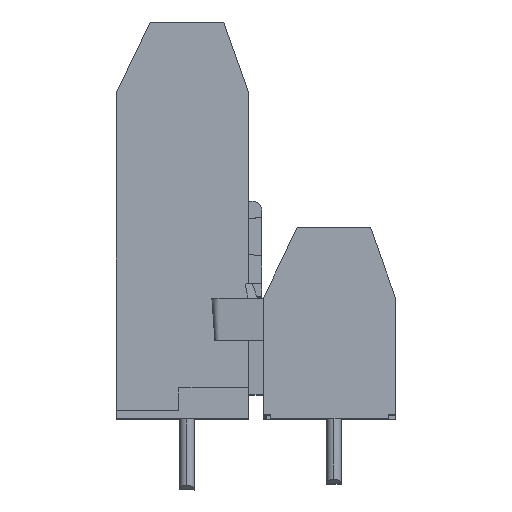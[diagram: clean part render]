
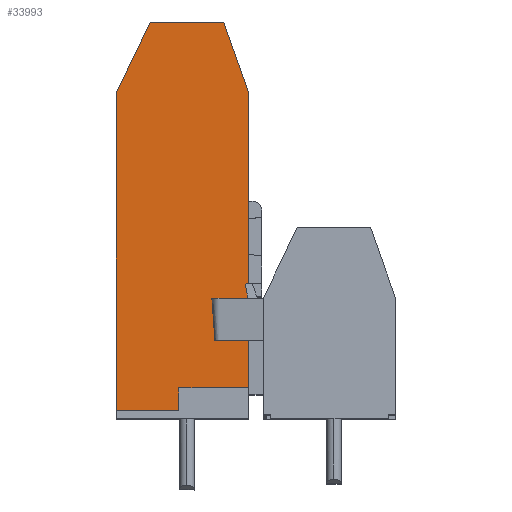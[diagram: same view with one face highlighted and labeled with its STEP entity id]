
A CAD part, top view. The second image highlights one B-rep face of the part: STEP entity #33993.
In plain terms, the highlighted planar face has unit normal (0, 0, 1).
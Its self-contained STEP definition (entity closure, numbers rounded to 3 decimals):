
#3606 = CARTESIAN_POINT ( 'NONE',  ( -0.3, 12.7, 0. ) ) ;
#3607 = LINE ( 'NONE', #3606, #3854 ) ;
#3711 = CARTESIAN_POINT ( 'NONE',  ( 4.2, -6.1, 0. ) ) ;
#3721 = CARTESIAN_POINT ( 'NONE',  ( 4.145, -6.1, 0. ) ) ;
#3722 = CARTESIAN_POINT ( 'NONE',  ( 4.093, -5.806, 0. ) ) ;
#3723 = CARTESIAN_POINT ( 'NONE',  ( 4.041, -5.512, 0. ) ) ;
#3724 = CARTESIAN_POINT ( 'NONE',  ( 3.989, -5.217, 0. ) ) ;
#3726 = B_SPLINE_CURVE_WITH_KNOTS ( 'NONE', 3,
 ( #3724, #3723, #3722, #3721 ),
 .UNSPECIFIED., .F., .F.,
 ( 4, 4 ),
 ( 0., 1. ),
 .UNSPECIFIED. ) ;
#3727 = CARTESIAN_POINT ( 'NONE',  ( 3.989, -5.217, 0. ) ) ;
#3740 = CARTESIAN_POINT ( 'NONE',  ( 4.145, -6.1, 0. ) ) ;
#3771 = CARTESIAN_POINT ( 'NONE',  ( -0.55, -12.2, 0. ) ) ;
#3783 = CARTESIAN_POINT ( 'NONE',  ( -4.8, -13.733, 0. ) ) ;
#3802 = CARTESIAN_POINT ( 'NONE',  ( 4.2, -12.2, 0. ) ) ;
#3803 = DIRECTION ( 'NONE',  ( 0., -1., 0. ) ) ;
#3804 = VECTOR ( 'NONE', #3803, 1000. ) ;
#3805 = CARTESIAN_POINT ( 'NONE',  ( 4.2, -0.516, 0. ) ) ;
#3806 = LINE ( 'NONE', #3805, #3804 ) ;
#3815 = CARTESIAN_POINT ( 'NONE',  ( -0.55, -13.733, 0. ) ) ;
#3816 = DIRECTION ( 'NONE',  ( 0., -1., 0. ) ) ;
#3817 = VECTOR ( 'NONE', #3816, 1000. ) ;
#3818 = CARTESIAN_POINT ( 'NONE',  ( -0.55, -0.516, 0. ) ) ;
#3819 = LINE ( 'NONE', #3818, #3817 ) ;
#3845 = DIRECTION ( 'NONE',  ( 1., 0., 0. ) ) ;
#3846 = VECTOR ( 'NONE', #3845, 1000. ) ;
#3847 = CARTESIAN_POINT ( 'NONE',  ( -0.3, -6.1, 0. ) ) ;
#3848 = LINE ( 'NONE', #3847, #3846 ) ;
#3849 = DIRECTION ( 'NONE',  ( -1., 0., 0. ) ) ;
#3850 = VECTOR ( 'NONE', #3849, 1000. ) ;
#3851 = CARTESIAN_POINT ( 'NONE',  ( -0.3, -12.2, 0. ) ) ;
#3852 = LINE ( 'NONE', #3851, #3850 ) ;
#3853 = DIRECTION ( 'NONE',  ( 1., 0., 0. ) ) ;
#3854 = VECTOR ( 'NONE', #3853, 1000. ) ;
#3855 = B_SPLINE_CURVE_WITH_KNOTS ( 'NONE', 3,
 ( #3906, #3905, #3904, #3903, #3902, #3901 ),
 .UNSPECIFIED., .F., .F.,
 ( 4, 2, 4 ),
 ( 0., 0.5, 1. ),
 .UNSPECIFIED. ) ;
#3856 = CARTESIAN_POINT ( 'NONE',  ( 4.088, -5.1, 0. ) ) ;
#3901 = CARTESIAN_POINT ( 'NONE',  ( 3.989, -5.217, 0. ) ) ;
#3902 = CARTESIAN_POINT ( 'NONE',  ( 3.984, -5.189, 0. ) ) ;
#3903 = CARTESIAN_POINT ( 'NONE',  ( 3.993, -5.158, 0. ) ) ;
#3904 = CARTESIAN_POINT ( 'NONE',  ( 4.03, -5.113, 0. ) ) ;
#3905 = CARTESIAN_POINT ( 'NONE',  ( 4.059, -5.1, 0. ) ) ;
#3906 = CARTESIAN_POINT ( 'NONE',  ( 4.088, -5.1, 0. ) ) ;
#3929 = DIRECTION ( 'NONE',  ( -1., 0., 0. ) ) ;
#3930 = VECTOR ( 'NONE', #3929, 1000. ) ;
#3931 = CARTESIAN_POINT ( 'NONE',  ( -0.3, -13.733, 0. ) ) ;
#3932 = LINE ( 'NONE', #3931, #3930 ) ;
#4553 = CARTESIAN_POINT ( 'NONE',  ( -2.5, 12.7, 0. ) ) ;
#4614 = CARTESIAN_POINT ( 'NONE',  ( 2.5, 12.7, 0. ) ) ;
#5994 = CARTESIAN_POINT ( 'NONE',  ( 4.2, 7.9, 0. ) ) ;
#5995 = CARTESIAN_POINT ( 'NONE',  ( 3.633, 9.5, 0. ) ) ;
#5996 = CARTESIAN_POINT ( 'NONE',  ( 3.067, 11.1, 0. ) ) ;
#5997 = CARTESIAN_POINT ( 'NONE',  ( 2.5, 12.7, 0. ) ) ;
#5999 = CARTESIAN_POINT ( 'NONE',  ( 4.2, 7.9, 0. ) ) ;
#6000 = B_SPLINE_CURVE_WITH_KNOTS ( 'NONE', 3,
 ( #5997, #5996, #5995, #5994 ),
 .UNSPECIFIED., .F., .F.,
 ( 4, 4 ),
 ( 0., 1. ),
 .UNSPECIFIED. ) ;
#7388 = CARTESIAN_POINT ( 'NONE',  ( 4.2, -5.1, 0. ) ) ;
#7442 = DIRECTION ( 'NONE',  ( -1., 0., 0. ) ) ;
#7443 = VECTOR ( 'NONE', #7442, 1000. ) ;
#7444 = CARTESIAN_POINT ( 'NONE',  ( -0.3, -5.1, 0. ) ) ;
#7445 = LINE ( 'NONE', #7444, #7443 ) ;
#9857 = CARTESIAN_POINT ( 'NONE',  ( -4.8, 7.9, 0. ) ) ;
#9858 = DIRECTION ( 'NONE',  ( -0.432, -0.902, 0. ) ) ;
#9859 = VECTOR ( 'NONE', #9858, 1000. ) ;
#9860 = CARTESIAN_POINT ( 'NONE',  ( -3.65, 10.3, 0. ) ) ;
#9861 = LINE ( 'NONE', #9860, #9859 ) ;
#9862 = DIRECTION ( 'NONE',  ( 0., 1., 0. ) ) ;
#9863 = VECTOR ( 'NONE', #9862, 1000. ) ;
#9864 = CARTESIAN_POINT ( 'NONE',  ( 4.2, -2.15, 0. ) ) ;
#9865 = LINE ( 'NONE', #9864, #9863 ) ;
#9866 = DIRECTION ( 'NONE',  ( -1., 0., 0. ) ) ;
#9867 = DIRECTION ( 'NONE',  ( 0., 0., -1. ) ) ;
#9868 = CARTESIAN_POINT ( 'NONE',  ( 4.2, -13.733, 0. ) ) ;
#9869 = AXIS2_PLACEMENT_3D ( 'NONE', #9868, #9867, #9866 ) ;
#9870 = PLANE ( 'NONE',  #9869 ) ;
#9871 = FACE_OUTER_BOUND ( 'NONE', #34032, .T. ) ;
#9904 = B_SPLINE_CURVE_WITH_KNOTS ( 'NONE', 3,
 ( #9949, #9948, #9947, #9946 ),
 .UNSPECIFIED., .F., .F.,
 ( 4, 4 ),
 ( 0., 1. ),
 .UNSPECIFIED. ) ;
#9946 = CARTESIAN_POINT ( 'NONE',  ( -4.8, -13.733, 0. ) ) ;
#9947 = CARTESIAN_POINT ( 'NONE',  ( -4.8, -6.522, 0. ) ) ;
#9948 = CARTESIAN_POINT ( 'NONE',  ( -4.8, 0.689, 0. ) ) ;
#9949 = CARTESIAN_POINT ( 'NONE',  ( -4.8, 7.9, 0. ) ) ;
#27767 = VERTEX_POINT ( 'NONE', #3727 ) ;
#27769 = EDGE_CURVE ( 'NONE', #27767, #27810, #3726, .T. ) ;
#27779 = VERTEX_POINT ( 'NONE', #3711 ) ;
#27810 = VERTEX_POINT ( 'NONE', #3740 ) ;
#27824 = VERTEX_POINT ( 'NONE', #3783 ) ;
#27836 = VERTEX_POINT ( 'NONE', #3771 ) ;
#27851 = EDGE_CURVE ( 'NONE', #27836, #27853, #3819, .T. ) ;
#27853 = VERTEX_POINT ( 'NONE', #3815 ) ;
#27864 = EDGE_CURVE ( 'NONE', #27779, #27866, #3806, .T. ) ;
#27866 = VERTEX_POINT ( 'NONE', #3802 ) ;
#27881 = EDGE_CURVE ( 'NONE', #27866, #27836, #3852, .T. ) ;
#27888 = EDGE_CURVE ( 'NONE', #27810, #27779, #3848, .T. ) ;
#27935 = VERTEX_POINT ( 'NONE', #3856 ) ;
#27937 = EDGE_CURVE ( 'NONE', #27935, #27767, #3855, .T. ) ;
#27967 = EDGE_CURVE ( 'NONE', #27853, #27824, #3932, .T. ) ;
#28712 = VERTEX_POINT ( 'NONE', #4553 ) ;
#28717 = EDGE_CURVE ( 'NONE', #28712, #28718, #3607, .T. ) ;
#28718 = VERTEX_POINT ( 'NONE', #4614 ) ;
#30296 = EDGE_CURVE ( 'NONE', #28718, #30297, #6000, .T. ) ;
#30297 = VERTEX_POINT ( 'NONE', #5999 ) ;
#31736 = VERTEX_POINT ( 'NONE', #7388 ) ;
#31739 = EDGE_CURVE ( 'NONE', #31736, #27935, #7445, .T. ) ;
#33979 = ORIENTED_EDGE ( 'NONE', *, *, #27769, .F. ) ;
#33981 = ORIENTED_EDGE ( 'NONE', *, *, #27937, .F. ) ;
#33993 = ADVANCED_FACE ( 'NONE', ( #9871 ), #9870, .F. ) ;
#33994 = ORIENTED_EDGE ( 'NONE', *, *, #31739, .F. ) ;
#33995 = ORIENTED_EDGE ( 'NONE', *, *, #33998, .T. ) ;
#33998 = EDGE_CURVE ( 'NONE', #31736, #30297, #9865, .T. ) ;
#34000 = ORIENTED_EDGE ( 'NONE', *, *, #30296, .F. ) ;
#34002 = ORIENTED_EDGE ( 'NONE', *, *, #28717, .F. ) ;
#34003 = ORIENTED_EDGE ( 'NONE', *, *, #34004, .T. ) ;
#34004 = EDGE_CURVE ( 'NONE', #28712, #34005, #9861, .T. ) ;
#34005 = VERTEX_POINT ( 'NONE', #9857 ) ;
#34007 = ORIENTED_EDGE ( 'NONE', *, *, #34114, .T. ) ;
#34032 = EDGE_LOOP ( 'NONE', ( #33994, #33995, #34000, #34002, #34003, #34007, #34116, #34117, #34118, #34119, #34120, #33979, #33981 ) ) ;
#34114 = EDGE_CURVE ( 'NONE', #34005, #27824, #9904, .T. ) ;
#34116 = ORIENTED_EDGE ( 'NONE', *, *, #27967, .F. ) ;
#34117 = ORIENTED_EDGE ( 'NONE', *, *, #27851, .F. ) ;
#34118 = ORIENTED_EDGE ( 'NONE', *, *, #27881, .F. ) ;
#34119 = ORIENTED_EDGE ( 'NONE', *, *, #27864, .F. ) ;
#34120 = ORIENTED_EDGE ( 'NONE', *, *, #27888, .F. ) ;
